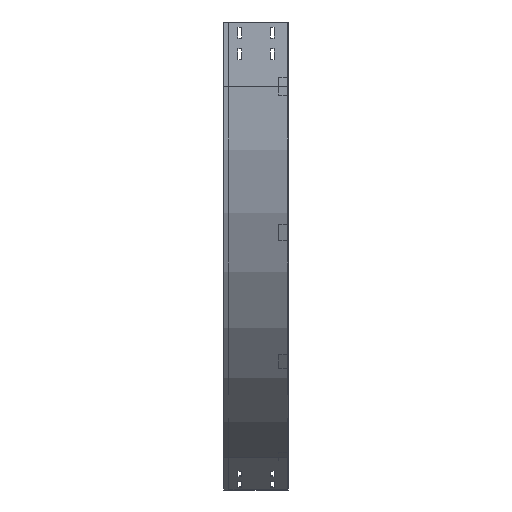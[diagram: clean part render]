
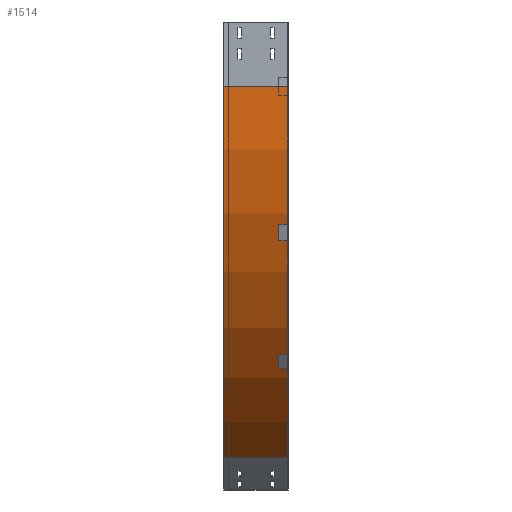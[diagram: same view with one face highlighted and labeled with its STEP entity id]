
A CAD part, left-side view. The second image highlights one B-rep face of the part: STEP entity #1514.
In plain terms, the highlighted cylindrical face has radius 1000 mm (diameter 2000 mm), a partial arc.
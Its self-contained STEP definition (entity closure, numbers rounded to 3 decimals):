
#104 = VERTEX_POINT ( 'NONE', #3003 ) ;
#316 = DIRECTION ( 'NONE',  ( 0., -1., 0. ) ) ;
#355 = AXIS2_PLACEMENT_3D ( 'NONE', #2032, #2566, #484 ) ;
#397 = EDGE_LOOP ( 'NONE', ( #2798, #3672, #2728, #939 ) ) ;
#447 = CARTESIAN_POINT ( 'NONE',  ( 1000., 0., -150. ) ) ;
#484 = DIRECTION ( 'NONE',  ( 0., 0., -1. ) ) ;
#502 = LINE ( 'NONE', #3155, #3422 ) ;
#614 = CIRCLE ( 'NONE', #2238, 1000. ) ;
#939 = ORIENTED_EDGE ( 'NONE', *, *, #3201, .T. ) ;
#985 = CIRCLE ( 'NONE', #1778, 1000. ) ;
#1376 = FACE_OUTER_BOUND ( 'NONE', #397, .T. ) ;
#1494 = DIRECTION ( 'NONE',  ( -1., 0., 0. ) ) ;
#1514 = ADVANCED_FACE ( 'NONE', ( #1376 ), #2324, .T. ) ;
#1570 = DIRECTION ( 'NONE',  ( 0., -1., 0. ) ) ;
#1661 = DIRECTION ( 'NONE',  ( 0., -1., 0. ) ) ;
#1778 = AXIS2_PLACEMENT_3D ( 'NONE', #3275, #316, #1494 ) ;
#1918 = VECTOR ( 'NONE', #3135, 1000. ) ;
#1961 = EDGE_CURVE ( 'NONE', #2395, #3732, #985, .T. ) ;
#2032 = CARTESIAN_POINT ( 'NONE',  ( 1000., 0., -150. ) ) ;
#2238 = AXIS2_PLACEMENT_3D ( 'NONE', #447, #1570, #2767 ) ;
#2324 = CYLINDRICAL_SURFACE ( 'NONE', #355, 1000. ) ;
#2360 = CARTESIAN_POINT ( 'NONE',  ( 500., 150., -1016.025 ) ) ;
#2395 = VERTEX_POINT ( 'NONE', #2574 ) ;
#2566 = DIRECTION ( 'NONE',  ( 0., -1., 0. ) ) ;
#2574 = CARTESIAN_POINT ( 'NONE',  ( 0., 150., -150. ) ) ;
#2593 = LINE ( 'NONE', #3152, #1918 ) ;
#2728 = ORIENTED_EDGE ( 'NONE', *, *, #1961, .T. ) ;
#2767 = DIRECTION ( 'NONE',  ( -1., 0., 0. ) ) ;
#2798 = ORIENTED_EDGE ( 'NONE', *, *, #3039, .F. ) ;
#2972 = CARTESIAN_POINT ( 'NONE',  ( 0., 0., -150. ) ) ;
#3003 = CARTESIAN_POINT ( 'NONE',  ( 500., 0., -1016.025 ) ) ;
#3039 = EDGE_CURVE ( 'NONE', #3283, #104, #614, .T. ) ;
#3135 = DIRECTION ( 'NONE',  ( 0., -1., 0. ) ) ;
#3152 = CARTESIAN_POINT ( 'NONE',  ( 0., 0., -150. ) ) ;
#3155 = CARTESIAN_POINT ( 'NONE',  ( 500., 0., -1016.025 ) ) ;
#3201 = EDGE_CURVE ( 'NONE', #3732, #104, #502, .T. ) ;
#3275 = CARTESIAN_POINT ( 'NONE',  ( 1000., 150., -150. ) ) ;
#3283 = VERTEX_POINT ( 'NONE', #2972 ) ;
#3422 = VECTOR ( 'NONE', #1661, 1000. ) ;
#3558 = EDGE_CURVE ( 'NONE', #2395, #3283, #2593, .T. ) ;
#3672 = ORIENTED_EDGE ( 'NONE', *, *, #3558, .F. ) ;
#3732 = VERTEX_POINT ( 'NONE', #2360 ) ;
